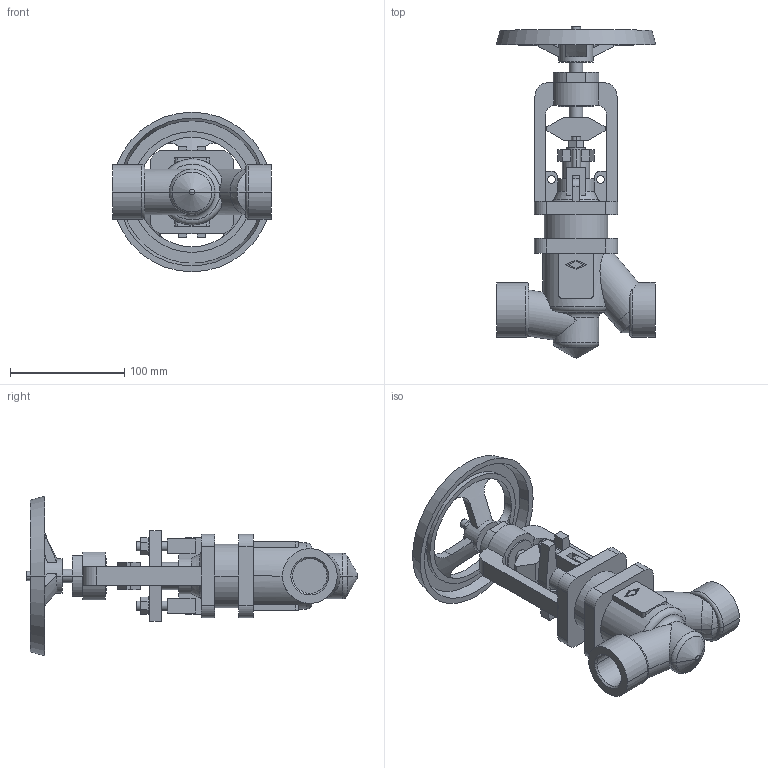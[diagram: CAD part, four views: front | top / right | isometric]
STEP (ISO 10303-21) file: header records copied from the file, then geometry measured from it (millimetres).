
FILE_DESCRIPTION(('OneSpaceDesigner STEP Export'),'2;1');
FILE_NAME('c000004261.stp','2010-05-04T11:08:30',(''),(''),'OneSpace Designer STEP processor for AP214 (Solid Model)','OneSpace Modeling 15.50B 03-Nov-2007 (C) CoCreate Software GmbH','');
FILE_SCHEMA(('AUTOMOTIVE_DESIGN { 1 0 10303 214 1 1 1 1 }'));
Length unit declared in the file: millimetre
Products named in the file (1): 1
Bounding box: 140 x 291.1 x 140 mm (x, y, z)
Volume: 728154.5 mm3; surface area: 132409 mm2
Topology: 1 solids, 1 shells, 288 faces, 752 edges, 489 vertices
Faces by surface type: plane 151, cylinder 93, cone 28, torus 14, sphere 2
Entity records: 11311 total; most frequent: CARTESIAN_POINT 2182, ORIENTED_EDGE 1504, DIRECTION 1295, EDGE_CURVE 752, VERTEX_POINT 489, VECTOR 435, LINE 435, AXIS2_PLACEMENT_3D 430
